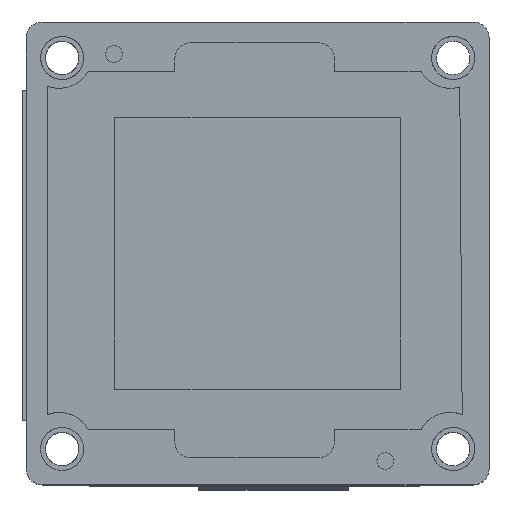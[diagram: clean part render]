
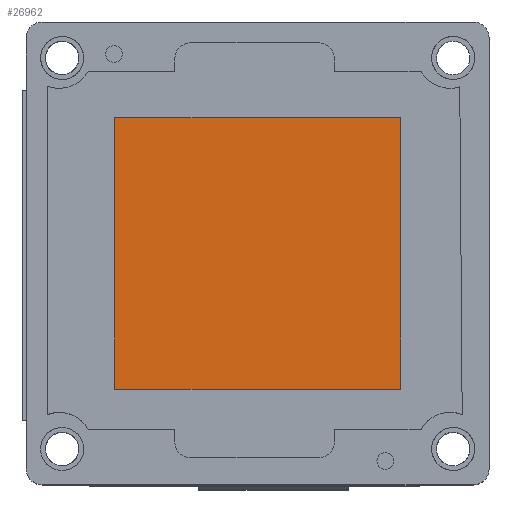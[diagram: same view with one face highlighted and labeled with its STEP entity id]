
A CAD part, top view. The second image highlights one B-rep face of the part: STEP entity #26962.
In plain terms, the highlighted planar face has unit normal (0, 0, 1).
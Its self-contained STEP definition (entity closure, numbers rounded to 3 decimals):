
#532 = VERTEX_POINT ( 'NONE', #21012 ) ;
#768 = CARTESIAN_POINT ( 'NONE',  ( 16.646, 13.078, -4.506 ) ) ;
#2272 = VECTOR ( 'NONE', #22393, 1000. ) ;
#2471 = DIRECTION ( 'NONE',  ( 0., 1., 0. ) ) ;
#3391 = VECTOR ( 'NONE', #15855, 1000. ) ;
#3605 = ORIENTED_EDGE ( 'NONE', *, *, #33086, .T. ) ;
#4110 = VERTEX_POINT ( 'NONE', #768 ) ;
#6003 = LINE ( 'NONE', #31142, #17606 ) ;
#8397 = LINE ( 'NONE', #30096, #3391 ) ;
#9321 = CARTESIAN_POINT ( 'NONE',  ( 7.696, 4.578, -4.506 ) ) ;
#11052 = FACE_OUTER_BOUND ( 'NONE', #23157, .T. ) ;
#12724 = ORIENTED_EDGE ( 'NONE', *, *, #23747, .T. ) ;
#13311 = DIRECTION ( 'NONE',  ( 0., -1., 0. ) ) ;
#14424 = CARTESIAN_POINT ( 'NONE',  ( -1.254, 13.078, -4.506 ) ) ;
#15855 = DIRECTION ( 'NONE',  ( -1., 0., 0. ) ) ;
#17606 = VECTOR ( 'NONE', #2471, 1000. ) ;
#17904 = DIRECTION ( 'NONE',  ( 0., 0., -1. ) ) ;
#18524 = ORIENTED_EDGE ( 'NONE', *, *, #28311, .T. ) ;
#18756 = AXIS2_PLACEMENT_3D ( 'NONE', #9321, #17904, #13311 ) ;
#20003 = DIRECTION ( 'NONE',  ( 1., 0., 0. ) ) ;
#21012 = CARTESIAN_POINT ( 'NONE',  ( 16.646, -3.922, -4.506 ) ) ;
#21332 = VERTEX_POINT ( 'NONE', #27307 ) ;
#22224 = EDGE_CURVE ( 'NONE', #21332, #25056, #33269, .T. ) ;
#22393 = DIRECTION ( 'NONE',  ( 0., -1., 0. ) ) ;
#23157 = EDGE_LOOP ( 'NONE', ( #12724, #3605, #35101, #18524 ) ) ;
#23747 = EDGE_CURVE ( 'NONE', #532, #4110, #6003, .T. ) ;
#24741 = PLANE ( 'NONE',  #18756 ) ;
#25056 = VERTEX_POINT ( 'NONE', #33499 ) ;
#25736 = LINE ( 'NONE', #35478, #26864 ) ;
#26864 = VECTOR ( 'NONE', #20003, 1000. ) ;
#26962 = ADVANCED_FACE ( 'NONE', ( #11052 ), #24741, .F. ) ;
#27307 = CARTESIAN_POINT ( 'NONE',  ( -1.254, 13.078, -4.506 ) ) ;
#28311 = EDGE_CURVE ( 'NONE', #25056, #532, #25736, .T. ) ;
#30096 = CARTESIAN_POINT ( 'NONE',  ( 16.646, 13.078, -4.506 ) ) ;
#31142 = CARTESIAN_POINT ( 'NONE',  ( 16.646, 13.078, -4.506 ) ) ;
#33086 = EDGE_CURVE ( 'NONE', #4110, #21332, #8397, .T. ) ;
#33269 = LINE ( 'NONE', #14424, #2272 ) ;
#33499 = CARTESIAN_POINT ( 'NONE',  ( -1.254, -3.922, -4.506 ) ) ;
#35101 = ORIENTED_EDGE ( 'NONE', *, *, #22224, .T. ) ;
#35478 = CARTESIAN_POINT ( 'NONE',  ( 16.646, -3.922, -4.506 ) ) ;
